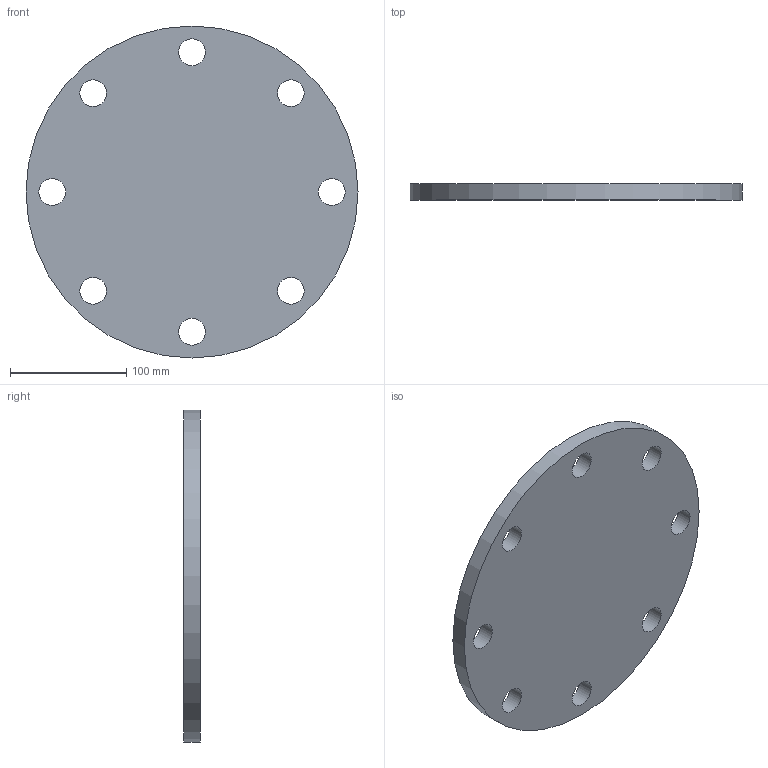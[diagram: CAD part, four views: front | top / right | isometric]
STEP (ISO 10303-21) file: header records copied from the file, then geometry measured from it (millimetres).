
FILE_DESCRIPTION(/* description */ (''),/* implementation_level */ '2;1');
FILE_NAME(/* name */ 'Z:\Geberit\Export\NewStep\369748.stp',/* time_stamp */ '2014-04-02T08:03:21+02:00',/* author */ ('nelson'),/* organization */ (''),/* preprocessor_version */ 'ST-DEVELOPER v15.2',/* originating_system */ 'Autodesk Inventor 2014',/* authorisation */ '');
FILE_SCHEMA (('AUTOMOTIVE_DESIGN { 1 0 10303 214 3 1 1 }'));
Length unit declared in the file: millimetre
Products named in the file (1): 369748
Bounding box: 285 x 14 x 285 mm (x, y, z)
Volume: 846582.3 mm3; surface area: 141568 mm2
Topology: 1 solids, 1 shells, 11 faces, 27 edges, 18 vertices
Faces by surface type: cylinder 9, plane 2
Full cylindrical faces by diameter (mm): 23 x8, 285 x1
Entity records: 347 total; most frequent: DIRECTION 60, CARTESIAN_POINT 48, EDGE_LOOP 36, ORIENTED_EDGE 36, AXIS2_PLACEMENT_3D 30, FACE_BOUND 27, CIRCLE 18, VERTEX_POINT 18
